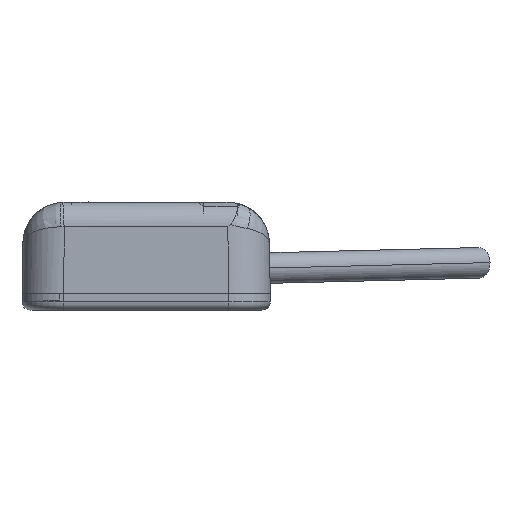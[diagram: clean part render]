
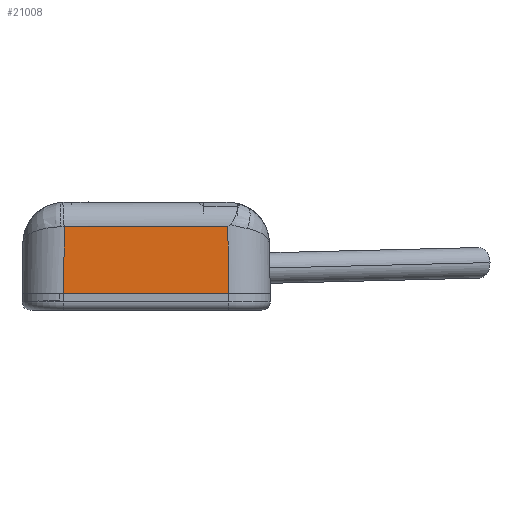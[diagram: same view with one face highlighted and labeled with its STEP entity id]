
A CAD part, left-side view. The second image highlights one B-rep face of the part: STEP entity #21008.
In plain terms, the highlighted planar face has unit normal (-1, 0, 0.018).
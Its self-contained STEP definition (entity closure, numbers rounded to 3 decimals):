
#1477=CARTESIAN_POINT('',(-95.25,49.999,2.));
#8821=DIRECTION('',(0.,-1.,0.));
#8822=VECTOR('',#8821,19.723);
#8823=CARTESIAN_POINT('',(-95.109,69.863,10.055));
#8824=LINE('',#8823,#8822);
#8842=DIRECTION('',(-0.017,0.017,-1.));
#8843=VECTOR('',#8842,8.058);
#8844=CARTESIAN_POINT('',(-95.109,69.863,10.055));
#8845=LINE('',#8844,#8843);
#8849=DIRECTION('',(0.017,0.017,1.));
#8850=VECTOR('',#8849,8.055);
#8851=CARTESIAN_POINT('',(-95.25,49.999,2.));
#8852=LINE('',#8851,#8850);
#8856=DIRECTION('',(0.,-1.,0.));
#8857=VECTOR('',#8856,20.002);
#8858=CARTESIAN_POINT('',(-95.25,70.001,2.));
#8859=LINE('',#8858,#8857);
#9027=CARTESIAN_POINT('',(-95.109,69.863,10.055));
#12899=VERTEX_POINT('',#1477);
#12900=CARTESIAN_POINT('',(-95.25,70.001,2.));
#12901=VERTEX_POINT('',#12900);
#13042=VERTEX_POINT('',#9027);
#13050=CARTESIAN_POINT('',(-95.109,50.14,
10.052));
#13051=VERTEX_POINT('',#13050);
#20996=CARTESIAN_POINT('',(-95.25,60.,2.));
#20997=DIRECTION('',(-1.,0.,0.017));
#20998=DIRECTION('',(0.017,0.,1.));
#20999=AXIS2_PLACEMENT_3D('',#20996,#20997,#20998);
#21000=PLANE('',#20999);
#21002=ORIENTED_EDGE('',*,*,#21001,.F.);
#21003=ORIENTED_EDGE('',*,*,#20974,.T.);
#21004=ORIENTED_EDGE('',*,*,#20964,.F.);
#21005=ORIENTED_EDGE('',*,*,#15025,.F.);
#21006=EDGE_LOOP('',(#21002,#21003,#21004,#21005));
#21007=FACE_OUTER_BOUND('',#21006,.F.);
#15025=EDGE_CURVE('',#12901,#12899,#8859,.T.);
#20964=EDGE_CURVE('',#12899,#13051,#8852,.T.);
#20974=EDGE_CURVE('',#13042,#13051,#8824,.T.);
#21001=EDGE_CURVE('',#13042,#12901,#8845,.T.);
#21008=ADVANCED_FACE('',(#21007),#21000,.T.);
